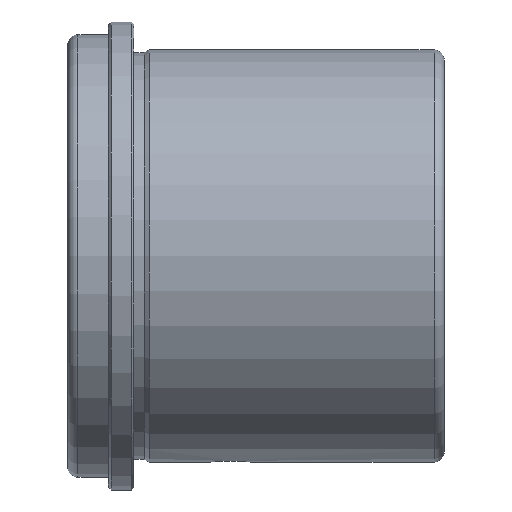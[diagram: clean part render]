
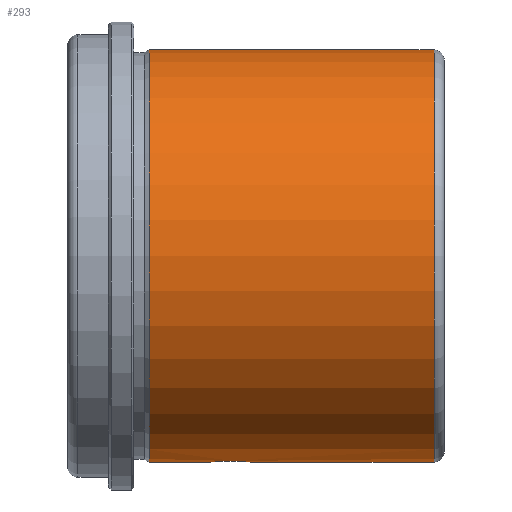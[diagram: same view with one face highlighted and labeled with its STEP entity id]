
A CAD part, top view. The second image highlights one B-rep face of the part: STEP entity #293.
In plain terms, the highlighted cylindrical face has radius 40.5 mm (diameter 81 mm), a full revolution.
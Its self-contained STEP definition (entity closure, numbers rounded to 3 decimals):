
#28=B_SPLINE_CURVE_WITH_KNOTS('',3,(#537,#538,#539,#540,#541,#542,#543,
#544,#545,#546,#547,#548,#549,#550,#551,#552,#553,#554),.UNSPECIFIED.,.F.,
 .F.,(4,2,2,2,2,2,2,2,4),(0.603,0.754,0.905,
1.055,1.206,1.357,1.508,1.659,
1.809),.UNSPECIFIED.);
#29=B_SPLINE_CURVE_WITH_KNOTS('',3,(#558,#559,#560,#561,#562,#563,#564,
#565,#566,#567,#568,#569,#570,#571,#572,#573,#574,#575,#576),
 .UNSPECIFIED.,.F.,.F.,(4,2,2,2,3,2,2,2,4),(1.809,1.96,
2.111,2.262,2.412,2.563,2.714,
2.865,3.016),.UNSPECIFIED.);
#32=LINE('',#535,#43);
#33=LINE('',#556,#44);
#43=VECTOR('',#409,40.5);
#44=VECTOR('',#410,40.5);
#53=CYLINDRICAL_SURFACE('',#343,40.5);
#64=FACE_OUTER_BOUND('',#83,.T.);
#83=EDGE_LOOP('',(#215,#216,#217,#218,#219,#220,#221,#222,#223));
#107=CIRCLE('',#341,40.5);
#108=CIRCLE('',#342,40.5);
#109=CIRCLE('',#344,40.5);
#131=VERTEX_POINT('',#528);
#132=VERTEX_POINT('',#530);
#133=VERTEX_POINT('',#534);
#134=VERTEX_POINT('',#536);
#135=VERTEX_POINT('',#555);
#161=EDGE_CURVE('',#131,#132,#107,.T.);
#162=EDGE_CURVE('',#132,#131,#108,.T.);
#163=EDGE_CURVE('',#132,#133,#32,.T.);
#164=EDGE_CURVE('',#133,#134,#28,.T.);
#165=EDGE_CURVE('',#134,#135,#33,.T.);
#166=EDGE_CURVE('',#135,#135,#109,.T.);
#167=EDGE_CURVE('',#134,#133,#29,.T.);
#215=ORIENTED_EDGE('',*,*,#162,.F.);
#216=ORIENTED_EDGE('',*,*,#163,.T.);
#217=ORIENTED_EDGE('',*,*,#164,.T.);
#218=ORIENTED_EDGE('',*,*,#165,.T.);
#219=ORIENTED_EDGE('',*,*,#166,.T.);
#220=ORIENTED_EDGE('',*,*,#165,.F.);
#221=ORIENTED_EDGE('',*,*,#167,.T.);
#222=ORIENTED_EDGE('',*,*,#163,.F.);
#223=ORIENTED_EDGE('',*,*,#161,.F.);
#293=ADVANCED_FACE('',(#64),#53,.T.);
#341=AXIS2_PLACEMENT_3D('',#531,#403,#404);
#342=AXIS2_PLACEMENT_3D('',#532,#405,#406);
#343=AXIS2_PLACEMENT_3D('',#533,#407,#408);
#344=AXIS2_PLACEMENT_3D('',#557,#411,#412);
#403=DIRECTION('center_axis',(1.,0.,0.));
#404=DIRECTION('ref_axis',(0.,-1.,0.));
#405=DIRECTION('center_axis',(1.,0.,0.));
#406=DIRECTION('ref_axis',(0.,-1.,0.));
#407=DIRECTION('center_axis',(1.,0.,0.));
#408=DIRECTION('ref_axis',(0.,1.,0.));
#409=DIRECTION('',(-1.,0.,0.));
#410=DIRECTION('',(-1.,0.,0.));
#411=DIRECTION('center_axis',(1.,0.,0.));
#412=DIRECTION('ref_axis',(0.,0.,-1.));
#528=CARTESIAN_POINT('',(72.,0.,40.5));
#530=CARTESIAN_POINT('',(72.,-40.5,0.));
#531=CARTESIAN_POINT('Origin',(72.,0.,0.));
#532=CARTESIAN_POINT('Origin',(72.,0.,0.));
#533=CARTESIAN_POINT('Origin',(45.,0.,0.));
#534=CARTESIAN_POINT('',(36.,-40.5,0.));
#535=CARTESIAN_POINT('',(45.,-40.5,0.));
#536=CARTESIAN_POINT('',(28.,-40.5,0.));
#537=CARTESIAN_POINT('Ctrl Pts',(36.,-40.5,0.));
#538=CARTESIAN_POINT('Ctrl Pts',(36.,-40.5,-0.503));
#539=CARTESIAN_POINT('Ctrl Pts',(35.899,-40.49,-1.038));
#540=CARTESIAN_POINT('Ctrl Pts',(35.491,-40.452,-2.024));
#541=CARTESIAN_POINT('Ctrl Pts',(35.183,-40.426,-2.473));
#542=CARTESIAN_POINT('Ctrl Pts',(34.473,-40.376,-3.183));
#543=CARTESIAN_POINT('Ctrl Pts',(34.024,-40.35,-3.491));
#544=CARTESIAN_POINT('Ctrl Pts',(33.038,-40.312,-3.899));
#545=CARTESIAN_POINT('Ctrl Pts',(32.503,-40.302,-4.));
#546=CARTESIAN_POINT('Ctrl Pts',(31.497,-40.302,-4.));
#547=CARTESIAN_POINT('Ctrl Pts',(30.962,-40.312,-3.899));
#548=CARTESIAN_POINT('Ctrl Pts',(29.976,-40.35,-3.491));
#549=CARTESIAN_POINT('Ctrl Pts',(29.527,-40.376,-3.183));
#550=CARTESIAN_POINT('Ctrl Pts',(28.817,-40.426,-2.473));
#551=CARTESIAN_POINT('Ctrl Pts',(28.509,-40.452,-2.024));
#552=CARTESIAN_POINT('Ctrl Pts',(28.101,-40.49,-1.038));
#553=CARTESIAN_POINT('Ctrl Pts',(28.,-40.5,-0.503));
#554=CARTESIAN_POINT('Ctrl Pts',(28.,-40.5,0.));
#555=CARTESIAN_POINT('',(16.,-40.5,0.));
#556=CARTESIAN_POINT('',(45.,-40.5,0.));
#557=CARTESIAN_POINT('Origin',(16.,0.,0.));
#558=CARTESIAN_POINT('Ctrl Pts',(28.,-40.5,0.));
#559=CARTESIAN_POINT('Ctrl Pts',(28.,-40.5,0.503));
#560=CARTESIAN_POINT('Ctrl Pts',(28.101,-40.49,1.038));
#561=CARTESIAN_POINT('Ctrl Pts',(28.509,-40.452,2.024));
#562=CARTESIAN_POINT('Ctrl Pts',(28.817,-40.426,2.473));
#563=CARTESIAN_POINT('Ctrl Pts',(29.527,-40.376,3.183));
#564=CARTESIAN_POINT('Ctrl Pts',(29.976,-40.35,3.491));
#565=CARTESIAN_POINT('Ctrl Pts',(30.962,-40.312,3.899));
#566=CARTESIAN_POINT('Ctrl Pts',(31.497,-40.302,4.));
#567=CARTESIAN_POINT('Ctrl Pts',(32.,-40.302,4.));
#568=CARTESIAN_POINT('Ctrl Pts',(32.503,-40.302,4.));
#569=CARTESIAN_POINT('Ctrl Pts',(33.038,-40.312,3.899));
#570=CARTESIAN_POINT('Ctrl Pts',(34.024,-40.35,3.491));
#571=CARTESIAN_POINT('Ctrl Pts',(34.473,-40.376,3.183));
#572=CARTESIAN_POINT('Ctrl Pts',(35.183,-40.426,2.473));
#573=CARTESIAN_POINT('Ctrl Pts',(35.491,-40.452,2.024));
#574=CARTESIAN_POINT('Ctrl Pts',(35.899,-40.49,1.038));
#575=CARTESIAN_POINT('Ctrl Pts',(36.,-40.5,0.503));
#576=CARTESIAN_POINT('Ctrl Pts',(36.,-40.5,0.));
